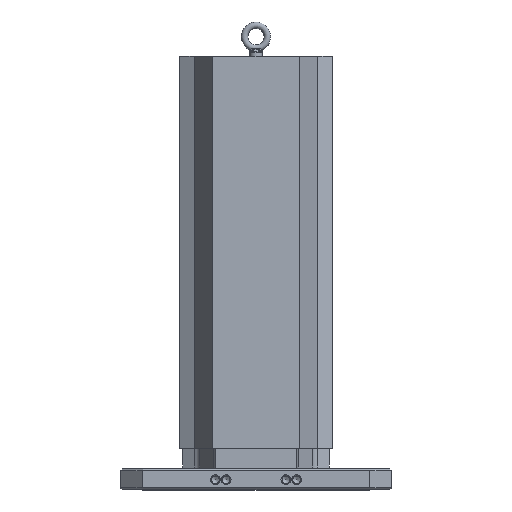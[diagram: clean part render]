
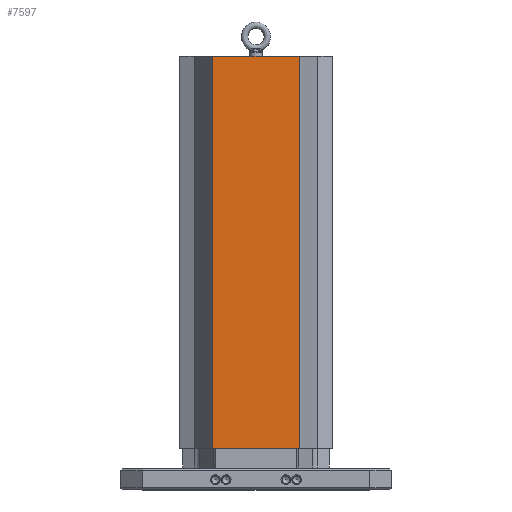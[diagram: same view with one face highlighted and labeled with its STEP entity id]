
A CAD part, top view. The second image highlights one B-rep face of the part: STEP entity #7597.
In plain terms, the highlighted planar face has unit normal (0, 0, 1) as drawn and (0, 0, -1) by its records, which use the part's own axes.
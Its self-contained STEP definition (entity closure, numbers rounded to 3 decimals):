
#223 = ORIENTED_EDGE ( 'NONE', *, *, #5539, .T. ) ;
#846 = DIRECTION ( 'NONE',  ( 0., -1., 0. ) ) ;
#892 = ORIENTED_EDGE ( 'NONE', *, *, #15584, .T. ) ;
#1798 = VECTOR ( 'NONE', #3221, 1000. ) ;
#2512 = PLANE ( 'NONE',  #14965 ) ;
#3221 = DIRECTION ( 'NONE',  ( 1., 0., 0. ) ) ;
#3486 = EDGE_CURVE ( 'NONE', #16482, #6651, #13828, .T. ) ;
#3871 = FACE_OUTER_BOUND ( 'NONE', #10413, .T. ) ;
#4177 = VECTOR ( 'NONE', #7159, 1000. ) ;
#4912 = CARTESIAN_POINT ( 'NONE',  ( 79.756, 38.1, -116.992 ) ) ;
#5160 = CARTESIAN_POINT ( 'NONE',  ( -79.756, 953.126, -116.992 ) ) ;
#5539 = EDGE_CURVE ( 'NONE', #16338, #9355, #10864, .T. ) ;
#5599 = CARTESIAN_POINT ( 'NONE',  ( -79.756, 38.1, -116.992 ) ) ;
#6418 = VECTOR ( 'NONE', #13993, 1000. ) ;
#6651 = VERTEX_POINT ( 'NONE', #11145 ) ;
#6887 = EDGE_CURVE ( 'NONE', #6651, #9355, #10807, .T. ) ;
#7159 = DIRECTION ( 'NONE',  ( 1., 0., 0. ) ) ;
#7317 = CARTESIAN_POINT ( 'NONE',  ( 79.756, 953.126, -116.992 ) ) ;
#7576 = CARTESIAN_POINT ( 'NONE',  ( -79.756, 953.126, -116.992 ) ) ;
#7597 = ADVANCED_FACE ( 'NONE', ( #3871 ), #2512, .T. ) ;
#8236 = VECTOR ( 'NONE', #846, 1000. ) ;
#9355 = VERTEX_POINT ( 'NONE', #4912 ) ;
#9459 = CARTESIAN_POINT ( 'NONE',  ( -79.756, 762., -116.992 ) ) ;
#10125 = CARTESIAN_POINT ( 'NONE',  ( -79.756, 762., -116.992 ) ) ;
#10413 = EDGE_LOOP ( 'NONE', ( #10440, #892, #223, #15899 ) ) ;
#10440 = ORIENTED_EDGE ( 'NONE', *, *, #3486, .F. ) ;
#10807 = LINE ( 'NONE', #5599, #1798 ) ;
#10864 = LINE ( 'NONE', #7317, #8236 ) ;
#11145 = CARTESIAN_POINT ( 'NONE',  ( -79.756, 38.1, -116.992 ) ) ;
#12781 = DIRECTION ( 'NONE',  ( -1., 0., 0. ) ) ;
#13657 = CARTESIAN_POINT ( 'NONE',  ( 79.756, 762., -116.992 ) ) ;
#13828 = LINE ( 'NONE', #5160, #6418 ) ;
#13993 = DIRECTION ( 'NONE',  ( 0., -1., 0. ) ) ;
#14965 = AXIS2_PLACEMENT_3D ( 'NONE', #7576, #15306, #12781 ) ;
#15306 = DIRECTION ( 'NONE',  ( 0., 0., -1. ) ) ;
#15584 = EDGE_CURVE ( 'NONE', #16482, #16338, #15818, .T. ) ;
#15818 = LINE ( 'NONE', #9459, #4177 ) ;
#15899 = ORIENTED_EDGE ( 'NONE', *, *, #6887, .F. ) ;
#16338 = VERTEX_POINT ( 'NONE', #13657 ) ;
#16482 = VERTEX_POINT ( 'NONE', #10125 ) ;
